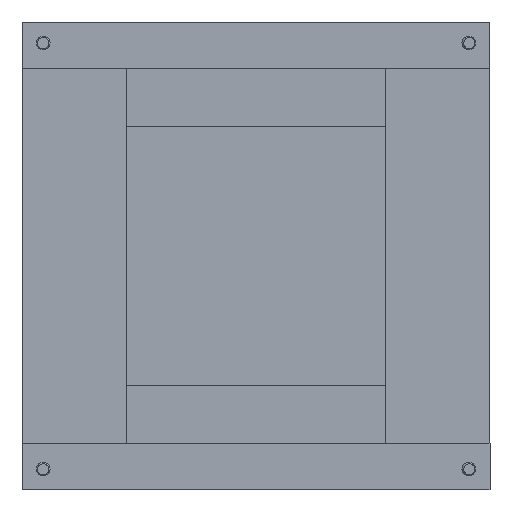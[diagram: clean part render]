
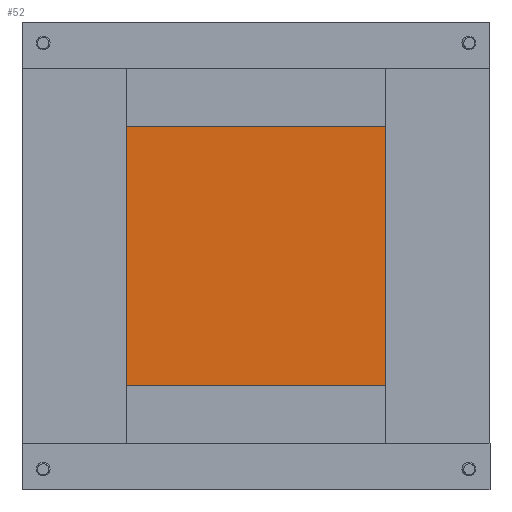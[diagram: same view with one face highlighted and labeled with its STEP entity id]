
A CAD part, front view. The second image highlights one B-rep face of the part: STEP entity #52.
In plain terms, the highlighted planar face has unit normal (0, -1, 0) as drawn and (0, 0, 1) by its records, which use the part's own axes.
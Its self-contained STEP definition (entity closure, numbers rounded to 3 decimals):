
#5 = ORIENTED_EDGE ( 'NONE', *, *, #50, .T. ) ;
#35 = VERTEX_POINT ( 'NONE', #862 ) ;
#38 = EDGE_CURVE ( 'NONE', #39, #196, #861, .T. ) ;
#39 = VERTEX_POINT ( 'NONE', #857 ) ;
#50 = EDGE_CURVE ( 'NONE', #81, #39, #836, .T. ) ;
#52 = ADVANCED_FACE ( 'NONE', ( #832 ), #929, .T. ) ;
#53 = EDGE_LOOP ( 'NONE', ( #54, #55, #56, #5 ) ) ;
#54 = ORIENTED_EDGE ( 'NONE', *, *, #38, .T. ) ;
#55 = ORIENTED_EDGE ( 'NONE', *, *, #198, .T. ) ;
#56 = ORIENTED_EDGE ( 'NONE', *, *, #83, .T. ) ;
#81 = VERTEX_POINT ( 'NONE', #1043 ) ;
#83 = EDGE_CURVE ( 'NONE', #35, #81, #1042, .T. ) ;
#196 = VERTEX_POINT ( 'NONE', #1201 ) ;
#198 = EDGE_CURVE ( 'NONE', #196, #35, #1200, .T. ) ;
#832 = FACE_OUTER_BOUND ( 'NONE', #53, .T. ) ;
#833 = DIRECTION ( 'NONE',  ( 1., 0., 0. ) ) ;
#834 = VECTOR ( 'NONE', #833, 1000. ) ;
#835 = CARTESIAN_POINT ( 'NONE',  ( -40.21, -40.21, 2. ) ) ;
#836 = LINE ( 'NONE', #835, #834 ) ;
#857 = CARTESIAN_POINT ( 'NONE',  ( 40.21, -40.21, 2. ) ) ;
#858 = DIRECTION ( 'NONE',  ( 0., 1., 0. ) ) ;
#859 = VECTOR ( 'NONE', #858, 1000. ) ;
#860 = CARTESIAN_POINT ( 'NONE',  ( 40.21, 40.21, 2. ) ) ;
#861 = LINE ( 'NONE', #860, #859 ) ;
#862 = CARTESIAN_POINT ( 'NONE',  ( -40.21, 40.21, 2. ) ) ;
#925 = DIRECTION ( 'NONE',  ( 1., 0., 0. ) ) ;
#926 = DIRECTION ( 'NONE',  ( 0., 0., 1. ) ) ;
#927 = CARTESIAN_POINT ( 'NONE',  ( 40.21, 40.21, 2. ) ) ;
#928 = AXIS2_PLACEMENT_3D ( 'NONE', #927, #926, #925 ) ;
#929 = PLANE ( 'NONE',  #928 ) ;
#1039 = DIRECTION ( 'NONE',  ( 0., -1., 0. ) ) ;
#1040 = VECTOR ( 'NONE', #1039, 1000. ) ;
#1041 = CARTESIAN_POINT ( 'NONE',  ( -40.21, 40.21, 2. ) ) ;
#1042 = LINE ( 'NONE', #1041, #1040 ) ;
#1043 = CARTESIAN_POINT ( 'NONE',  ( -40.21, -40.21, 2. ) ) ;
#1197 = DIRECTION ( 'NONE',  ( -1., 0., 0. ) ) ;
#1198 = VECTOR ( 'NONE', #1197, 1000. ) ;
#1199 = CARTESIAN_POINT ( 'NONE',  ( -40.21, 40.21, 2. ) ) ;
#1200 = LINE ( 'NONE', #1199, #1198 ) ;
#1201 = CARTESIAN_POINT ( 'NONE',  ( 40.21, 40.21, 2. ) ) ;
